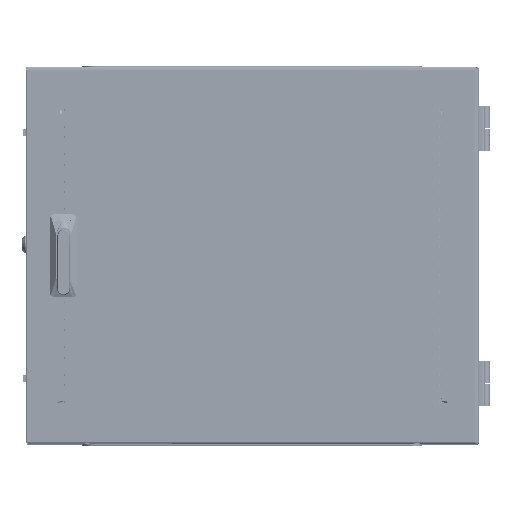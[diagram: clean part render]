
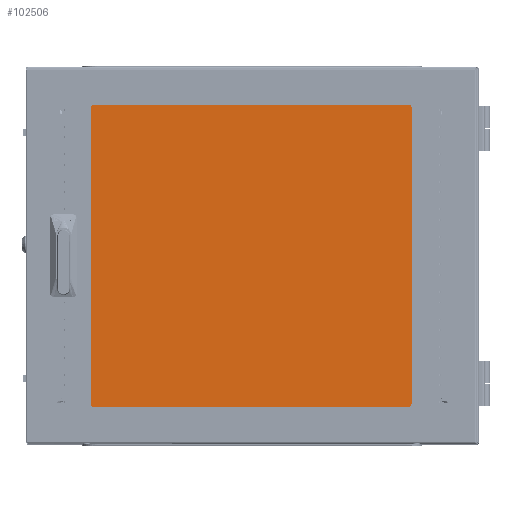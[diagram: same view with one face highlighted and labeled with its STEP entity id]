
A CAD part, top view. The second image highlights one B-rep face of the part: STEP entity #102506.
In plain terms, the highlighted planar face has unit normal (0, 0, 1) as drawn and (0, 0, -1) by its records, which use the part's own axes.
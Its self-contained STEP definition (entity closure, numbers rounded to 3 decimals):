
#354 = CARTESIAN_POINT ( 'NONE',  ( -217.5, -205., 0. ) ) ;
#3262 = ORIENTED_EDGE ( 'NONE', *, *, #67412, .F. ) ;
#5762 = EDGE_CURVE ( 'NONE', #103483, #134069, #96954, .T. ) ;
#6837 = VERTEX_POINT ( 'NONE', #354 ) ;
#19744 = VECTOR ( 'NONE', #87385, 1000. ) ;
#28617 = VECTOR ( 'NONE', #151035, 1000. ) ;
#36556 = FACE_OUTER_BOUND ( 'NONE', #102967, .T. ) ;
#36871 = VERTEX_POINT ( 'NONE', #44946 ) ;
#42429 = CARTESIAN_POINT ( 'NONE',  ( 0., 0., 0. ) ) ;
#44946 = CARTESIAN_POINT ( 'NONE',  ( 217.5, -205., 0. ) ) ;
#49112 = DIRECTION ( 'NONE',  ( -1., 0., 0. ) ) ;
#51746 = LINE ( 'NONE', #86859, #19744 ) ;
#52490 = VECTOR ( 'NONE', #146857, 1000. ) ;
#54495 = DIRECTION ( 'NONE',  ( 0., 0., -1. ) ) ;
#63020 = CARTESIAN_POINT ( 'NONE',  ( -217.5, 205., 0. ) ) ;
#66846 = CARTESIAN_POINT ( 'NONE',  ( 217.5, -205., 0. ) ) ;
#67412 = EDGE_CURVE ( 'NONE', #36871, #103483, #149154, .T. ) ;
#70998 = ORIENTED_EDGE ( 'NONE', *, *, #74864, .F. ) ;
#74864 = EDGE_CURVE ( 'NONE', #6837, #36871, #88343, .T. ) ;
#86396 = CARTESIAN_POINT ( 'NONE',  ( -217.5, -205., 0. ) ) ;
#86859 = CARTESIAN_POINT ( 'NONE',  ( -217.5, -205., 0. ) ) ;
#87385 = DIRECTION ( 'NONE',  ( 0., -1., 0. ) ) ;
#88343 = LINE ( 'NONE', #86396, #52490 ) ;
#93186 = VECTOR ( 'NONE', #49112, 1000. ) ;
#96954 = LINE ( 'NONE', #145455, #93186 ) ;
#101887 = EDGE_CURVE ( 'NONE', #134069, #6837, #51746, .T. ) ;
#102506 = ADVANCED_FACE ( 'NONE', ( #36556 ), #114566, .T. ) ;
#102967 = EDGE_LOOP ( 'NONE', ( #3262, #70998, #127927, #105616 ) ) ;
#103483 = VERTEX_POINT ( 'NONE', #145280 ) ;
#105616 = ORIENTED_EDGE ( 'NONE', *, *, #5762, .F. ) ;
#114566 = PLANE ( 'NONE',  #123238 ) ;
#123238 = AXIS2_PLACEMENT_3D ( 'NONE', #42429, #54495, #138739 ) ;
#127927 = ORIENTED_EDGE ( 'NONE', *, *, #101887, .F. ) ;
#134069 = VERTEX_POINT ( 'NONE', #63020 ) ;
#138739 = DIRECTION ( 'NONE',  ( -1., 0., 0. ) ) ;
#145280 = CARTESIAN_POINT ( 'NONE',  ( 217.5, 205., 0. ) ) ;
#145455 = CARTESIAN_POINT ( 'NONE',  ( -217.5, 205., 0. ) ) ;
#146857 = DIRECTION ( 'NONE',  ( 1., 0., 0. ) ) ;
#149154 = LINE ( 'NONE', #66846, #28617 ) ;
#151035 = DIRECTION ( 'NONE',  ( 0., 1., 0. ) ) ;
